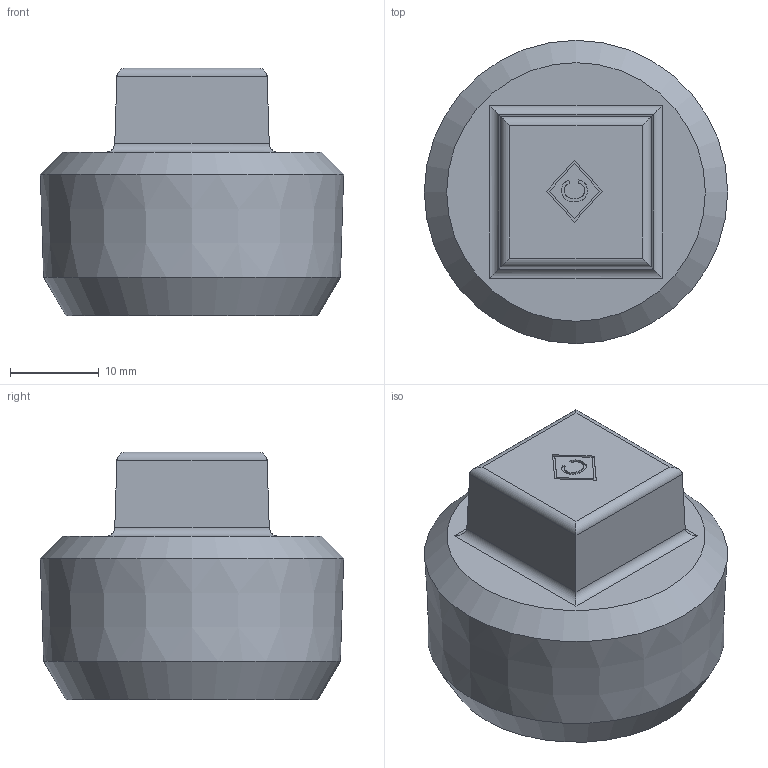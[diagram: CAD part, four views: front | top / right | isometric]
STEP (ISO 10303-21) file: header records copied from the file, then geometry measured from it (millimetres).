
FILE_DESCRIPTION((''),'2;1');
FILE_NAME('P:\Fastrack\53909_CRANE\Crane\Fig.147 Plain Plug Hollow\New 1.00 inch\147-1.00.stp','2009-09-14T16:56:34',('btaylor'),(''),'Autodesk Inventor 2008','Autodesk Inventor 2008','');
FILE_SCHEMA(('AUTOMOTIVE_DESIGN { 1 0 10303 214 1 1 1 1 }'));
Length unit declared in the file: millimetre
Products named in the file (1): 147-1.00
Bounding box: 34.24 x 34.24 x 28 mm (x, y, z)
Volume: 12503.6 mm3; surface area: 4698 mm2
Topology: 1 solids, 1 shells, 42 faces, 96 edges, 60 vertices
Faces by surface type: plane 20, bspline 10, cylinder 8, cone 4
Entity records: 1335 total; most frequent: CARTESIAN_POINT 433, ORIENTED_EDGE 178, DIRECTION 154, EDGE_CURVE 89, VERTEX_POINT 59, VECTOR 58, LINE 58, EDGE_LOOP 52
